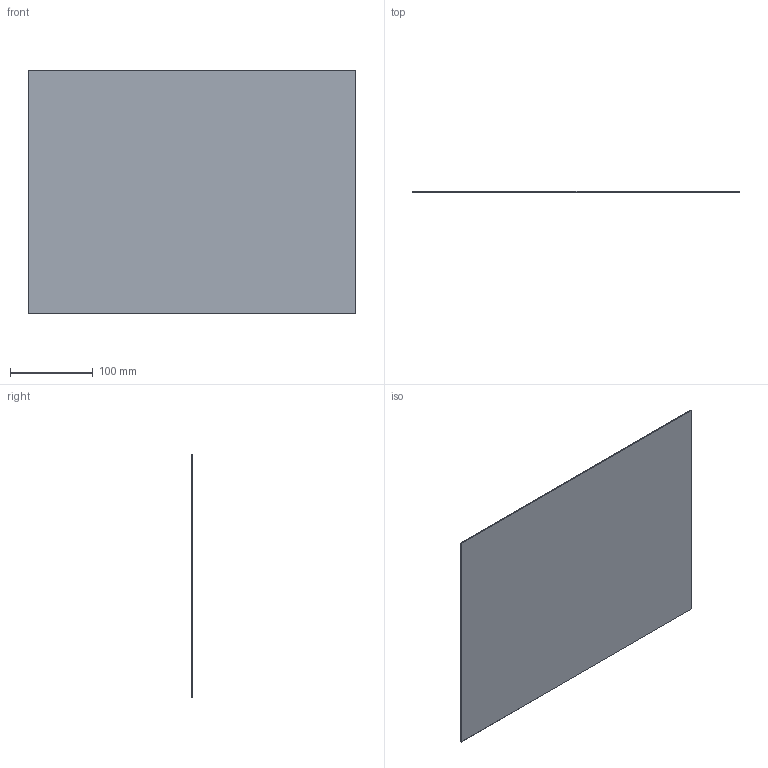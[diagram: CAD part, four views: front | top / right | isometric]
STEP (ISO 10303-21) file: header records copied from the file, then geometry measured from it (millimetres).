
FILE_DESCRIPTION (( 'STEP AP203' ), '1' );
FILE_NAME ('VT00285.STEP', '2016-10-24T12:33:45', ( '' ), ( '' ), 'SwSTEP 2.0', 'SolidWorks 2016', '' );
FILE_SCHEMA (( 'CONFIG_CONTROL_DESIGN' ));
Length unit declared in the file: millimetre
Products named in the file (1): VT00285
Bounding box: 393.5 x 1 x 293.5 mm (x, y, z)
Volume: 115492.2 mm3; surface area: 232358.5 mm2
Topology: 1 solids, 1 shells, 6 faces, 12 edges, 8 vertices
Faces by surface type: plane 6
Entity records: 233 total; most frequent: CARTESIAN_POINT 27, DIRECTION 26, ORIENTED_EDGE 24, LINE 12, VECTOR 12, EDGE_CURVE 12, VERTEX_POINT 8, PERSON_AND_ORGANIZATION 8
